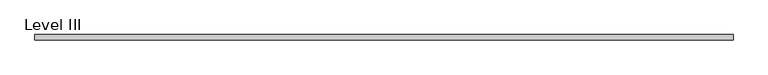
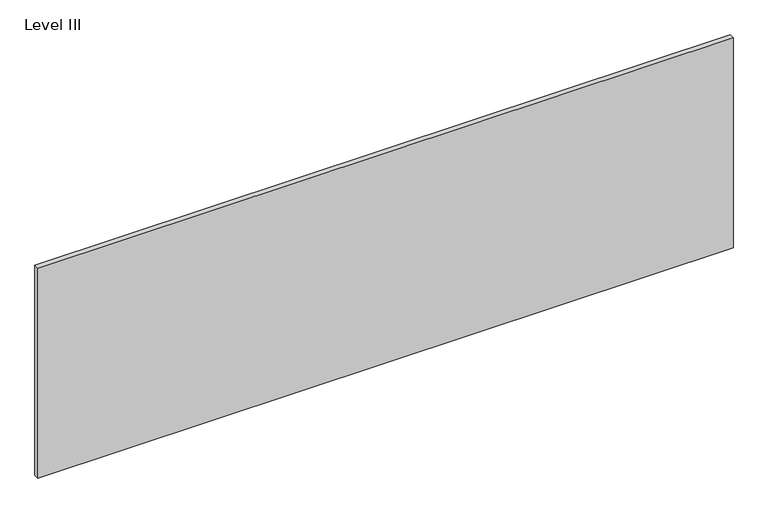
"""IFC4 building model written with IfcOpenShell, lengths in millimetres: proxy geometry, Panel-Fascia-Teknion-Altos-Landscape : Level III."""

from ifc_helpers import new_model, si_unit, frame, origin, place, context, project, spatial, polyline, outline, extrude, source, transform, mapped, element, save


def level_iii_4f8121dc(model_context):
    return source(origin(), model_context, "Body", "SweptSolid", [
        extrude(outline(polyline([(1259.8356344, -9.525), (-1259.8356344, -9.525), (-1259.8356344, 9.525), (1259.8356344, 9.525), (1259.8356344, -9.525)])), frame((0.0, 0.0, 3.175), z_axis=(0.0, 0.0, 1.0), x_axis=(1.0, 0.0, 0.0)), (0.0, 0.0, 1.0), 804.418),
    ])


if __name__ == "__main__":
    model = new_model("IFC4")
    model_context = context("Model", 3, world=origin())
    ifc_project = project(units=[si_unit("LENGTHUNIT", "METRE", prefix="MILLI")], contexts=[model_context])
    site = spatial("IfcSite", under=ifc_project)
    building = spatial("IfcBuilding", under=site)
    placement = place(None, origin())
    level_iii_shape = level_iii_4f8121dc(model_context)
    element("IfcBuildingElementProxy", 1, Name="Panel-Fascia-Teknion-Altos-Landscape : Level III", ObjectType="Panel-Fascia-Teknion-Altos-Landscape : Level III", at=placement, inside=building, context=model_context, shape_type="MappedRepresentation", body=[
        mapped(level_iii_shape, transform((0.0, 0.0, 0.0), x_axis=(1.0, 0.0, 0.0), y_axis=(0.0, 1.0, 0.0), z_axis=(0.0, 0.0, 1.0))),
    ])
    save(model, "model.ifc")
